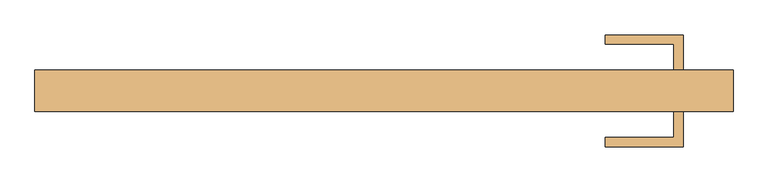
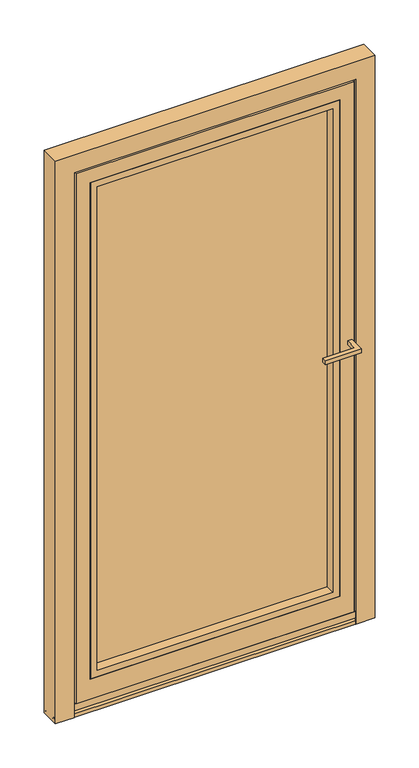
"""IFC4 building model written with IfcOpenShell, lengths in millimetres: door geometry, Reynaers_CS 77_Door_Plinth_Outward Opening_Single Vent : Reynaers_CS 77_Door_Plinth_Outward Opening_Single Vent."""

from ifc_helpers import new_model, si_unit, frame, origin, place, context, project, spatial, polyline, outline, extrude, faceted_brep, source, transform, mapped, element, save


def door_b2cb6bb5(model_context):
    return source(origin(), model_context, "Body", "SolidModel", [
        extrude(outline(polyline([(488.5, 42.5), (473.5, 42.5), (473.5, 85.0), (361.0, 85.0), (361.0, 100.0), (488.5, 100.0), (488.5, 42.5)])), frame((0.0, 0.0, 1062.5), z_axis=(0.0, 0.0, 1.0), x_axis=(1.0, 0.0, 0.0)), (0.0, 0.0, 1.0), 15.0),
        extrude(outline(polyline([(488.5, -25.5), (488.5, -83.0), (361.0, -83.0), (361.0, -68.0), (473.5, -68.0), (473.5, -25.5), (488.5, -25.5)])), frame((0.0, 0.0, 1062.5), z_axis=(0.0, 0.0, 1.0), x_axis=(1.0, 0.0, 0.0)), (0.0, 0.0, 1.0), 15.0),
        faceted_brep([(496.0, -25.5, 49.5), (496.0, -25.5, 2046.0), (-496.0, -25.5, 2046.0), (-496.0, -25.5, 49.5), (-445.0, -25.5, 1995.0), (445.0, -25.5, 1995.0), (445.0, -25.5, 124.5), (-445.0, -25.5, 124.5), (445.0, 34.5, 124.5), (-445.0, 34.5, 124.5), (445.0, 34.5, 1995.0), (-445.0, 34.5, 1995.0), (420.0, 34.5, 1970.0), (420.0, 34.5, 149.5), (-420.0, 34.5, 149.5), (-420.0, 34.5, 1970.0), (420.0, 42.5, 149.5), (-420.0, 42.5, 149.5), (-522.0, 42.5, 2072.0), (522.0, 42.5, 2072.0), (522.0, 42.5, 10.5), (-522.0, 42.5, 10.5), (-420.0, 42.5, 1970.0), (420.0, 42.5, 1970.0), (-522.0, 38.7, 10.5), (522.0, 38.7, 10.5), (-522.0, 38.7, 2072.0), (522.0, 38.7, 2072.0), (-507.0, 38.7, 2057.0), (507.0, 38.7, 2057.0), (507.0, 38.7, 49.5), (-507.0, 38.7, 49.5), (496.0, -15.7, 2046.0), (496.0, -15.7, 49.5), (-496.0, -15.7, 49.5), (-507.0, -15.7, 49.5), (507.0, -15.7, 49.5), (-496.0, -15.7, 2046.0), (507.0, -15.7, 2057.0), (-507.0, -15.7, 2057.0)], [[[0, 1, 2, 3], [4, 5, 6, 7]], [[7, 6, 8, 9]], [[5, 10, 8, 6]], [[10, 11, 9, 8], [12, 13, 14, 15]], [[9, 11, 4, 7]], [[16, 17, 14, 13]], [[18, 19, 20, 21], [22, 17, 16, 23]], [[22, 15, 14, 17]], [[12, 23, 16, 13]], [[24, 21, 20, 25]], [[21, 24, 26, 18]], [[25, 20, 19, 27]], [[24, 25, 27, 26], [28, 29, 30, 31]], [[32, 1, 0, 33]], [[33, 0, 3, 34, 35, 31, 30, 36]], [[37, 32, 33, 36, 38, 39, 35, 34]], [[2, 37, 34, 3]], [[29, 38, 36, 30]], [[39, 28, 31, 35]], [[4, 11, 10, 5]], [[37, 2, 1, 32]], [[39, 38, 29, 28]], [[18, 26, 27, 19]], [[15, 22, 23, 12]]]),
        extrude(outline(polyline([(125.5, -444.0), (125.5, 444.0), (1994.0, 444.0), (1994.0, -444.0), (125.5, -444.0)]), holes=[polyline([(149.5, 420.0), (149.5, -420.0), (1970.0, -420.0), (1970.0, 420.0), (149.5, 420.0)])]), frame((0.0, -25.5, 0.0), z_axis=(0.0, 1.0, 0.0), x_axis=(0.0, 0.0, 1.0)), (0.0, 0.0, 1.0), 33.0),
        extrude(outline(polyline([(439.0, 10.5), (-439.0, 10.5), (-439.0, 34.5), (439.0, 34.5), (439.0, 10.5)])), frame((0.0, 0.0, 130.5), z_axis=(0.0, 0.0, 1.0), x_axis=(1.0, 0.0, 0.0)), (0.0, 0.0, 1.0), 1858.5),
        faceted_brep([(-528.0, 32.7, 0.0), (-517.0, 32.7, 0.0), (-517.0, -21.7, 0.0), (-502.0, -21.7, 0.0), (-502.0, -25.5, 0.0), (-570.0, -25.5, 0.0), (-570.0, 42.5, 0.0), (-528.0, 42.5, 0.0), (-528.0, 32.7, 2078.0), (528.0, 32.7, 2078.0), (528.0, 32.7, 0.0), (517.0, 32.7, 0.0), (517.0, 32.7, 2067.0), (-517.0, 32.7, 2067.0), (-517.0, -21.7, 2067.0), (517.0, -21.7, 2067.0), (517.0, -21.7, 0.0), (502.0, -21.7, 0.0), (502.0, -21.7, 2052.0), (-502.0, -21.7, 2052.0), (-502.0, -25.5, 2052.0), (502.0, -25.5, 2052.0), (502.0, -25.5, 0.0), (570.0, -25.5, 0.0), (570.0, -25.5, 2120.0), (-570.0, -25.5, 2120.0), (-570.0, 42.5, 2120.0), (570.0, 42.5, 2120.0), (570.0, 42.5, 0.0), (528.0, 42.5, 0.0), (528.0, 42.5, 2078.0), (-528.0, 42.5, 2078.0)], [[[0, 1, 2, 3, 4, 5, 6, 7]], [[1, 0, 8, 9, 10, 11, 12, 13]], [[2, 1, 13, 14]], [[3, 2, 14, 15, 16, 17, 18, 19]], [[4, 3, 19, 20]], [[5, 4, 20, 21, 22, 23, 24, 25]], [[6, 5, 25, 26]], [[7, 6, 26, 27, 28, 29, 30, 31]], [[0, 7, 31, 8]], [[9, 30, 29, 10]], [[10, 29, 28, 23, 22, 17, 16, 11]], [[15, 12, 11, 16]], [[27, 24, 23, 28]], [[21, 18, 17, 22]], [[26, 25, 24, 27]], [[8, 31, 30, 9]], [[14, 13, 12, 15]], [[20, 19, 18, 21]]]),
        extrude(outline(polyline([(42.5, 2.3), (42.5, 1.0), (-25.5, 1.0), (-25.5, 13.958506), (-17.7418053, 19.3908525), (-11.5401437, 12.0), (32.0999995, 12.0), (32.0999995, 14.0), (33.6999995, 14.0), (33.6999995, 3.0699002), (42.5, 2.3)])), frame((-570.0, 0.0, 0.0), z_axis=(1.0, 0.0, 0.0), x_axis=(0.0, 1.0, 0.0)), (0.0, 0.0, 1.0), 1140.0),
        faceted_brep([(522.0, -13.6064116, 24.4582746), (522.0, -13.6064116, 20.8721712), (522.0, -5.1, 20.8721712), (522.0, -5.1, 24.4582746), (-522.0, -5.1, 27.7), (-522.0, -5.1, 20.8721712), (-522.0, -13.6064116, 20.8721712), (-522.0, -13.6064116, 24.4582746), (-522.0, -25.5, 24.4582746), (-522.0, -25.5, 24.7), (-522.0, -6.1527845, 24.7), (-522.0, -6.1527845, 27.7), (502.0, -25.5, 24.4582746), (502.0, -25.5, 49.5), (-502.0, -25.5, 49.5), (-502.0, -25.5, 24.7), (502.0, -13.6064116, 24.4582746), (502.0, -5.1, 27.7), (502.0, -5.1, 24.4582746), (-502.0, -6.1527845, 27.7), (-502.0, -21.7, 27.7), (502.0, -21.7, 27.7), (-502.0, -21.7, 49.5), (502.0, -21.7, 49.5), (-502.0, -6.1527845, 24.7)], [[[0, 1, 2, 3]], [[4, 5, 6, 7, 8, 9, 10, 11]], [[9, 8, 12, 13, 14, 15]], [[8, 7, 16, 12]], [[1, 0, 16, 7, 6]], [[2, 1, 6, 5]], [[5, 4, 17, 18, 3, 2]], [[4, 11, 19, 20, 21, 17]], [[20, 22, 23, 21]], [[22, 14, 13, 23]], [[10, 24, 19, 11]], [[24, 10, 9, 15]], [[19, 24, 15, 14, 22, 20]], [[18, 16, 0, 3]], [[16, 18, 17, 21, 23, 13, 12]]]),
    ])


if __name__ == "__main__":
    model = new_model("IFC4")
    model_context = context("Model", 3, world=origin())
    ifc_project = project(units=[si_unit("LENGTHUNIT", "METRE", prefix="MILLI")], contexts=[model_context])
    site = spatial("IfcSite", under=ifc_project)
    building = spatial("IfcBuilding", under=site)
    placement = place(None, origin())
    door_shape = door_b2cb6bb5(model_context)
    element("IfcDoor", 1, ObjectType="Reynaers_CS 77_Door_Plinth_Outward Opening_Single Vent : Reynaers_CS 77_Door_Plinth_Outward Opening_Single Vent", at=placement, inside=building, context=model_context, shape_type="MappedRepresentation", body=[
        mapped(door_shape, transform((0.0, 0.0, 0.0), x_axis=(1.0, 0.0, 0.0), y_axis=(0.0, 1.0, 0.0), z_axis=(0.0, 0.0, 1.0))),
    ])
    save(model, "model.ifc")
